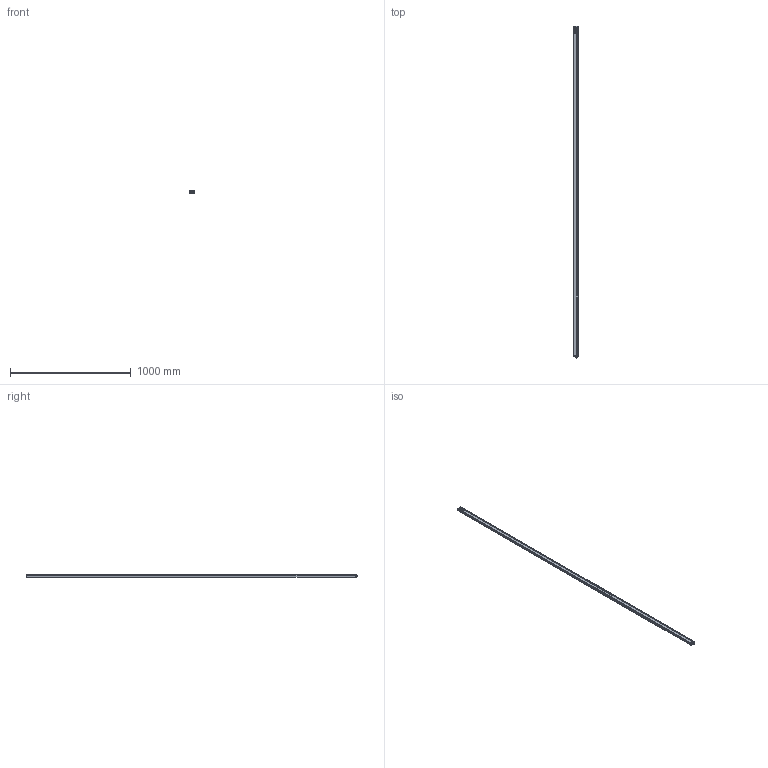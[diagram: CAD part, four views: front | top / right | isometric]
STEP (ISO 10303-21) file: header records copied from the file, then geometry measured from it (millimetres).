
FILE_DESCRIPTION(/* description */ (''),/* implementation_level */ '2;1');
FILE_NAME(/* name */ 'C:\Users\andre\SynologyDrive\Optoscan\Libreria Componenti\00 - Barriere\Barriera sorgente\Argo_2720_RX.stp',/* time_stamp */ '2021-04-23T12:49:56+02:00',/* author */ ('andre'),/* organization */ (''),/* preprocessor_version */ 'ST-DEVELOPER v18',/* originating_system */ 'Autodesk Inventor 2020',/* authorisation */ '');
FILE_SCHEMA (('AUTOMOTIVE_DESIGN { 1 0 10303 214 3 1 1 }'));
Length unit declared in the file: millimetre
Products named in the file (1): Argo_2720_RX
Bounding box: 40.5 x 2753.3 x 20.75 mm (x, y, z)
Volume: 540426.2 mm3; surface area: 719416.8 mm2
Topology: 1 solids, 1 shells, 676 faces, 1854 edges, 1185 vertices
Faces by surface type: plane 315, cylinder 191, bspline 94, torus 62, cone 8, sphere 6
Full cylindrical faces by diameter (mm): 1 x4, 2.5 x4, 3 x4, 3.5 x4, 5.5 x4, 8 x1, 10.5 x2, 11.75 x9, 15.7 x1, 17.5 x1
Entity records: 27592 total; most frequent: CARTESIAN_POINT 10103, ORIENTED_EDGE 3690, DIRECTION 3271, EDGE_CURVE 1845, VERTEX_POINT 1185, AXIS2_PLACEMENT_3D 1127, LINE 1017, VECTOR 1017
